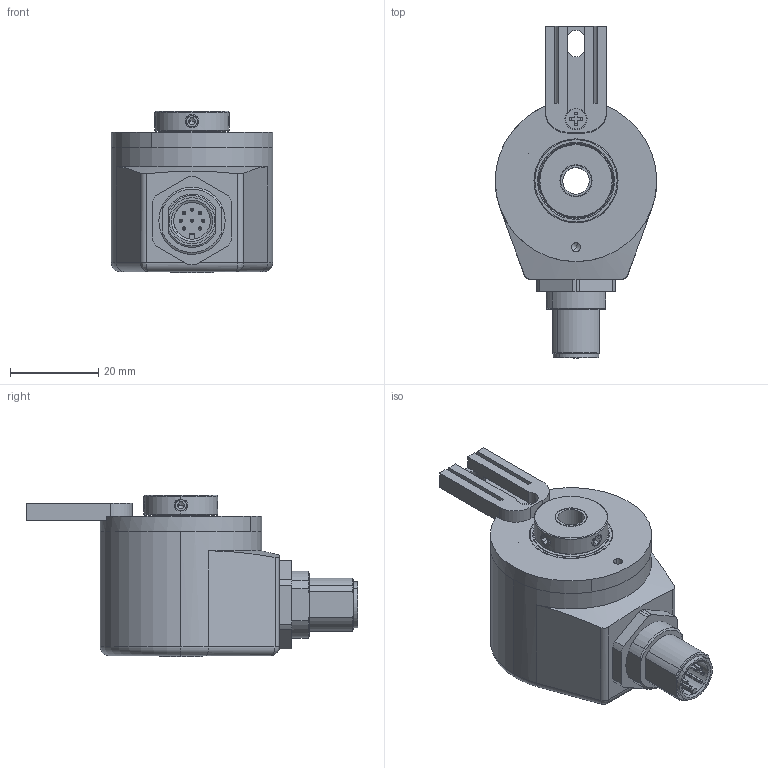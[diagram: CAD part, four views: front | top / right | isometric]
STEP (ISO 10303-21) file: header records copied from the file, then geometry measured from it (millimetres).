
FILE_DESCRIPTION (( 'STEP AP214' ), '1' );
FILE_NAME ('Step BG-36-H-06-XX-XXXX-X-1-XX-V026.STEP', '2013-11-28T15:36:03', ( 'IST GmbH' ), ( '' ), 'SwSTEP 2.0', 'SolidWorks 2009', '' );
FILE_SCHEMA (( 'AUTOMOTIVE_DESIGN' ));
Length unit declared in the file: millimetre
Products named in the file (1): Step BG-36-H-06-XX-XXXX-X-1-XX-V026
Bounding box: 36.5 x 75 x 36.5 mm (x, y, z)
Volume: 22734.9 mm3; surface area: 21831.9 mm2
Topology: 16 solids, 16 shells, 617 faces, 1470 edges, 912 vertices
Faces by surface type: plane 229, cylinder 216, cone 101, torus 48, bspline 23
Entity records: 26273 total; most frequent: CARTESIAN_POINT 4909, DIRECTION 3152, ORIENTED_EDGE 2896, EDGE_CURVE 1448, AXIS2_PLACEMENT_3D 1245, VERTEX_POINT 912, EDGE_LOOP 698, LINE 662
